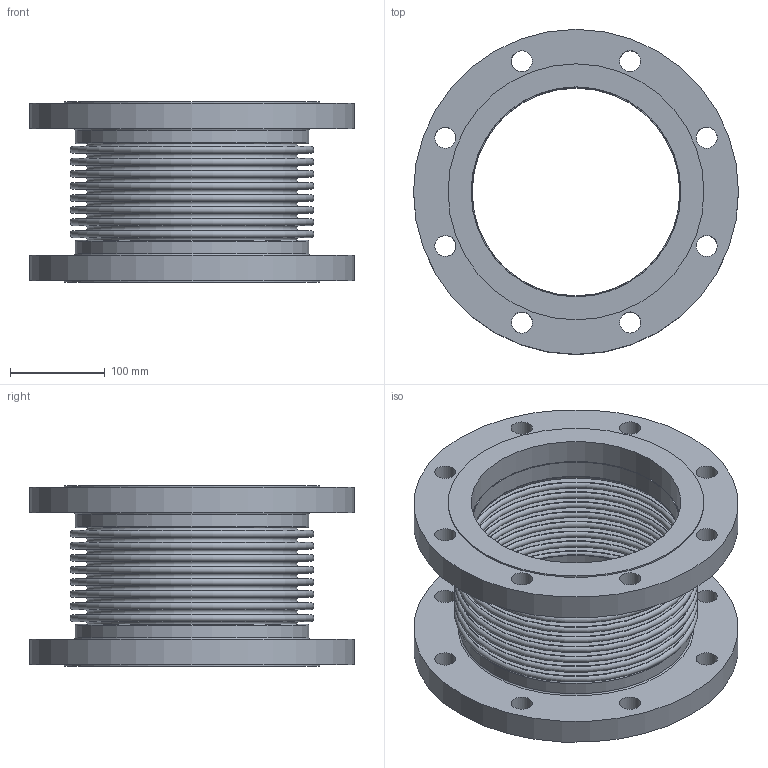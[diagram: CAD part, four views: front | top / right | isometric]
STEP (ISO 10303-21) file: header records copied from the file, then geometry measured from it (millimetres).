
FILE_DESCRIPTION(/* description */ ('EXPANSION JOINT,SINGLE, FLANGED ENDS,8 INCH NOMINAL','CAx-IF Rec.Pracs.---Representation and Presentation of Product Manufacturing Information (PMI)---4.0---2014-10-13'),/* implementation_level */ '2;1');
FILE_NAME(/* name */ 'US-08-8-150S-FLANGED ENDS.stp',/* time_stamp */ '2026-07-31T17:12:58-05:00',/* author */ ('Guadalupe'),/* organization */ (''),/* preprocessor_version */ 'ST-DEVELOPER v20.1',/* originating_system */ 'Autodesk Inventor 2026',/* authorisation */ '');
FILE_SCHEMA (('AP242_MANAGED_MODEL_BASED_3D_ENGINEERING_MIM_LF { 1 0 10303 442 2 1 4 }'));
Length unit declared in the file: inch
Products named in the file (3): 08-150S; 08-150S-02; 08-150S-01
Assembly tree (3 placements, depth 2):
  08-150S
    08-150S-02  x2
    08-150S-01
Bounding box: 342.9 x 342.9 x 190.5 mm (x, y, z)
Volume: 3339798.2 mm3; surface area: 955482 mm2
Topology: 5 solids, 5 shells, 112 faces, 198 edges, 132 vertices
Faces by surface type: plane 46, torus 38, cylinder 28
Full cylindrical faces by diameter (mm): 22.225 x16, 219.075 x2, 220.904 x2, 221.488 x2, 246.126 x2, 270.002 x2, 342.9 x2
Entity records: 2558 total; most frequent: DIRECTION 522, CARTESIAN_POINT 377, ORIENTED_EDGE 312, AXIS2_PLACEMENT_3D 253, EDGE_CURVE 156, EDGE_LOOP 152, CIRCLE 140, VERTEX_POINT 104
